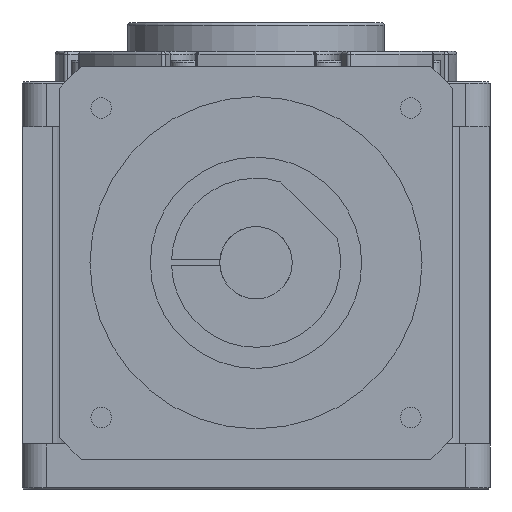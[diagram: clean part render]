
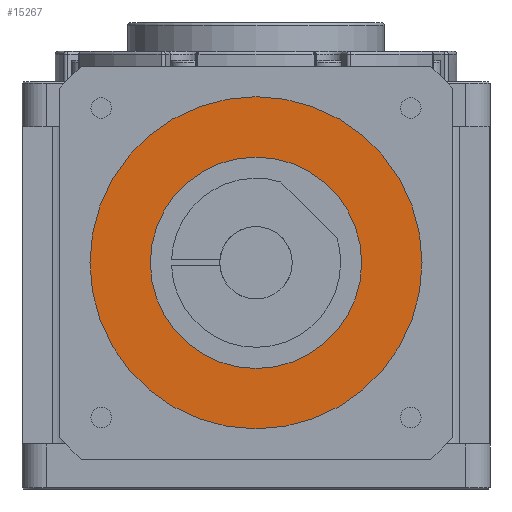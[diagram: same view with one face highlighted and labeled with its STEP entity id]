
A CAD part, front view. The second image highlights one B-rep face of the part: STEP entity #15267.
In plain terms, the highlighted planar face has unit normal (0, -1, 0) as drawn and (0, 0, -1) by its records, which use the part's own axes.
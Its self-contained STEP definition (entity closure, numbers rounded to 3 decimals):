
#25 = CARTESIAN_POINT ( 'NONE',  ( 0., 0., -111. ) ) ;
#215 = PLANE ( 'NONE',  #13574 ) ;
#293 = EDGE_CURVE ( 'NONE', #7766, #1751, #14982, .T. ) ;
#599 = ORIENTED_EDGE ( 'NONE', *, *, #3535, .F. ) ;
#917 = VERTEX_POINT ( 'NONE', #3068 ) ;
#1381 = CARTESIAN_POINT ( 'NONE',  ( 0., 0., -111. ) ) ;
#1751 = VERTEX_POINT ( 'NONE', #15434 ) ;
#1911 = CIRCLE ( 'NONE', #11120, 35. ) ;
#2995 = DIRECTION ( 'NONE',  ( -1., 0., 0. ) ) ;
#3068 = CARTESIAN_POINT ( 'NONE',  ( -35., 0., -111. ) ) ;
#3535 = EDGE_CURVE ( 'NONE', #917, #3931, #1911, .T. ) ;
#3801 = CIRCLE ( 'NONE', #4097, 55. ) ;
#3931 = VERTEX_POINT ( 'NONE', #11264 ) ;
#3998 = CIRCLE ( 'NONE', #10158, 35. ) ;
#4097 = AXIS2_PLACEMENT_3D ( 'NONE', #6026, #6312, #10447 ) ;
#4100 = CARTESIAN_POINT ( 'NONE',  ( 0., 0., -111. ) ) ;
#5170 = AXIS2_PLACEMENT_3D ( 'NONE', #14248, #11560, #12907 ) ;
#5642 = DIRECTION ( 'NONE',  ( -1., 0., 0. ) ) ;
#6026 = CARTESIAN_POINT ( 'NONE',  ( 0., 0., -111. ) ) ;
#6312 = DIRECTION ( 'NONE',  ( 0., 0., -1. ) ) ;
#7766 = VERTEX_POINT ( 'NONE', #14732 ) ;
#8350 = EDGE_LOOP ( 'NONE', ( #599, #13740 ) ) ;
#8474 = EDGE_CURVE ( 'NONE', #1751, #7766, #3801, .T. ) ;
#8776 = DIRECTION ( 'NONE',  ( 0., 0., -1. ) ) ;
#8970 = ORIENTED_EDGE ( 'NONE', *, *, #293, .T. ) ;
#10158 = AXIS2_PLACEMENT_3D ( 'NONE', #4100, #14367, #5642 ) ;
#10447 = DIRECTION ( 'NONE',  ( -1., 0., 0. ) ) ;
#11120 = AXIS2_PLACEMENT_3D ( 'NONE', #1381, #8776, #18656 ) ;
#11264 = CARTESIAN_POINT ( 'NONE',  ( 35., 0., -111. ) ) ;
#11560 = DIRECTION ( 'NONE',  ( 0., 0., -1. ) ) ;
#12907 = DIRECTION ( 'NONE',  ( -1., 0., 0. ) ) ;
#13049 = EDGE_CURVE ( 'NONE', #3931, #917, #3998, .T. ) ;
#13289 = DIRECTION ( 'NONE',  ( 0., 0., -1. ) ) ;
#13574 = AXIS2_PLACEMENT_3D ( 'NONE', #25, #13289, #2995 ) ;
#13671 = ORIENTED_EDGE ( 'NONE', *, *, #8474, .T. ) ;
#13740 = ORIENTED_EDGE ( 'NONE', *, *, #13049, .F. ) ;
#14248 = CARTESIAN_POINT ( 'NONE',  ( 0., 0., -111. ) ) ;
#14367 = DIRECTION ( 'NONE',  ( 0., 0., -1. ) ) ;
#14521 = FACE_BOUND ( 'NONE', #8350, .T. ) ;
#14732 = CARTESIAN_POINT ( 'NONE',  ( -55., 0., -111. ) ) ;
#14982 = CIRCLE ( 'NONE', #5170, 55. ) ;
#15267 = ADVANCED_FACE ( 'NONE', ( #14521, #16148 ), #215, .T. ) ;
#15434 = CARTESIAN_POINT ( 'NONE',  ( 55., 0., -111. ) ) ;
#16148 = FACE_OUTER_BOUND ( 'NONE', #18704, .T. ) ;
#18656 = DIRECTION ( 'NONE',  ( -1., 0., 0. ) ) ;
#18704 = EDGE_LOOP ( 'NONE', ( #8970, #13671 ) ) ;
